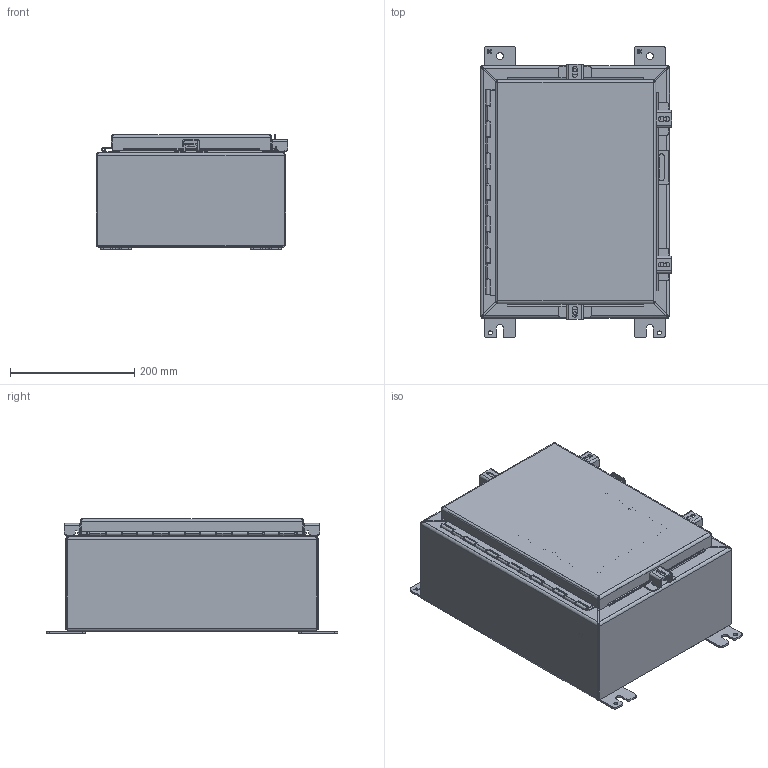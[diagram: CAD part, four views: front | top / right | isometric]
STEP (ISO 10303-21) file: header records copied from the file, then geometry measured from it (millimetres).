
FILE_DESCRIPTION (( 'STEP AP203' ), '1' );
FILE_NAME ('a16h1206ss6lp.STEP', '2010-03-11T20:15:41', ( 'Hoffman User' ), ( 'Hoffman Enclosures' ), 'SwSTEP 2.0', 'SolidWorks 2009', '' );
FILE_SCHEMA (( 'CONFIG_CONTROL_DESIGN' ));
Products named in the file (21): 22a18_hinge_body_13in; a16h1206ss6lp; 22132004; 22110002; stud_m6x16_99401226; 22300002_brkt_clamp1; wmt_door_16x12; 22107001; 24352001_SmPrintPocket; wmt_body_16x12x6; Body_16x12x6; end_12x6; 22112003_22112003; assy_clamp_End1; assy_clamp_Side1; 8756004X_clamp1; Door_16x12; 11158311_CD Stud M4; 99401225_99401225; 22a18_hinge_door_13in; Panel_Nema_A16P12
Assembly tree (32 placements, depth 4):
  a16h1206ss6lp
    Panel_Nema_A16P12
    wmt_door_16x12
      11158311_CD Stud M4  x2
      22a18_hinge_door_13in
      22107001
      24352001_SmPrintPocket
      99401225_99401225
      Door_16x12
    wmt_body_16x12x6
      22110002  x4
      22a18_hinge_body_13in
      end_12x6  x2
      assy_clamp_Side1  x2
        8756004X_clamp1
        22300002_brkt_clamp1
      22112003_22112003  x4
      assy_clamp_End1  x2
        22300002_brkt_clamp1
        8756004X_clamp1
      stud_m6x16_99401226
      Body_16x12x6
      22132004
Bounding box: 308.48 x 469.65 x 184.21 mm (x, y, z)
Volume: 1289938.8 mm3; surface area: 1380492.8 mm2
Topology: 30 solids, 30 shells, 1970 faces, 5104 edges, 3290 vertices
Faces by surface type: plane 1102, cylinder 407, bspline 377, torus 60, cone 20, sphere 4
Entity records: 57649 total; most frequent: CARTESIAN_POINT 22485, ORIENTED_EDGE 7232, DIRECTION 5844, EDGE_CURVE 3616, LINE 2574, VECTOR 2574, VERTEX_POINT 2334, AXIS2_PLACEMENT_3D 1635
